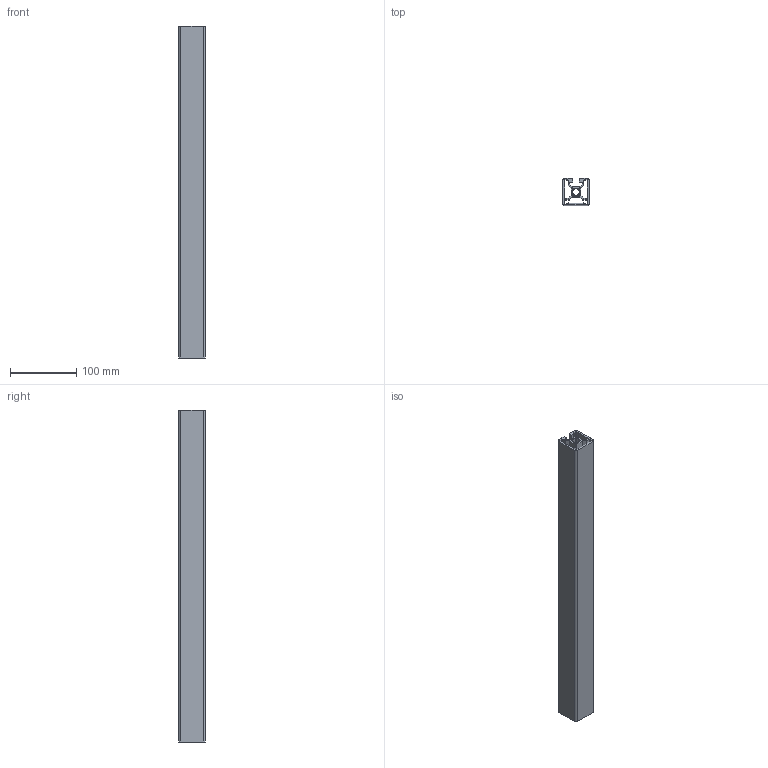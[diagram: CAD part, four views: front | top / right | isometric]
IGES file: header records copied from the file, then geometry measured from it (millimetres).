
Start section: SolidWorks IGES file using analytic representation for surfaces
Global section: file name: C:\Documents and Settings\Administrator\デスクトップ\指定保存後3回目\SolidWorks\SF\SF40・45\Frame\SFF-FF04.IGS; native system: SolidWorks 2006 by SolidWorks Corporation; preprocessor: SolidWorks 2006 by SolidWorks Corporation; author: Administrator; date: 061213.113805; units: millimetre
Bounding box: 40 x 40 x 500 mm (x, y, z)
Surface area: 237884.8 mm2 (no closed solid volume)
Topology: 0 solids, 0 shells, 113 faces, 1557 edges, 1890 vertices
Faces by surface type: revolution 60, bspline 53
